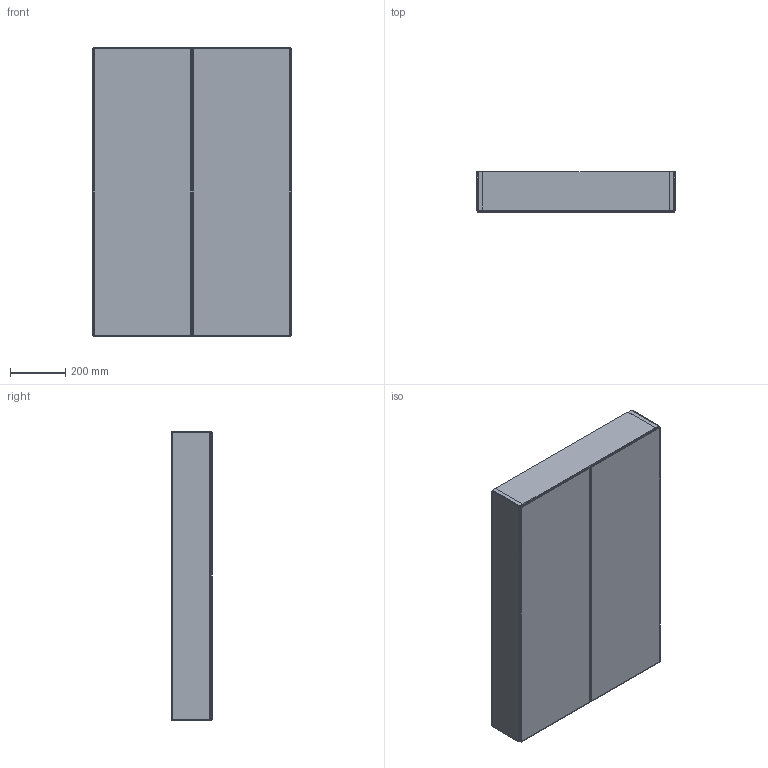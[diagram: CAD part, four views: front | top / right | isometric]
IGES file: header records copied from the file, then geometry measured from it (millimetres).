
Start section: Data from Parasolid IGES Translator 19.0.9, Copyright(c) 2006 Siemens PL M Software. All Rights Reserved.
Global section: file name: noorth-mirror-H 105 D 14,7 W 72_9071.igs; native system: By Siemens PLM Incorporated; preprocessor: XPlus GENERIC/IGES 19.0.9; author: Noname; organization: Noname; date: 20200519.095933; units: metre
Bounding box: 719.82 x 147 x 1050 mm (x, y, z)
Volume: 17241438.8 mm3; surface area: 5193312.2 mm2
Topology: 13 solids, 13 shells, 222 faces, 420 edges, 224 vertices
Faces by surface type: plane 222
